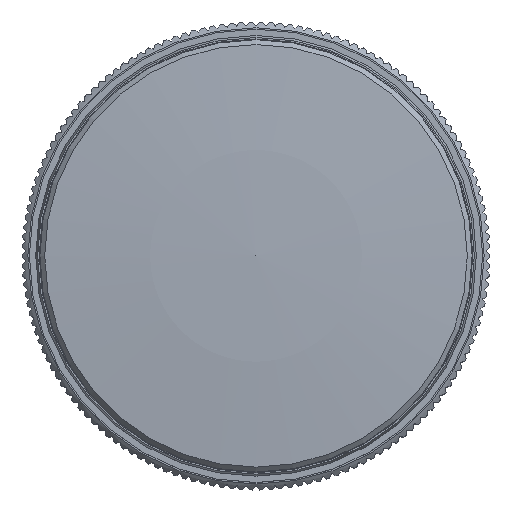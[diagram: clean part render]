
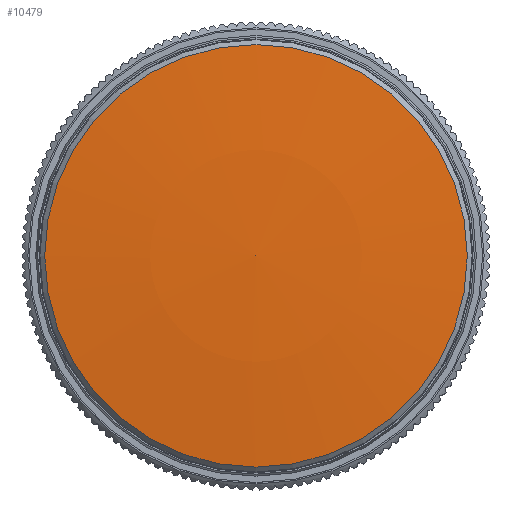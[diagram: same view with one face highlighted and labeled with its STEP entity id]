
A CAD part, top view. The second image highlights one B-rep face of the part: STEP entity #10479.
In plain terms, the highlighted spherical face has radius 257 mm.
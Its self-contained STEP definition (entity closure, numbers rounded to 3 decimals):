
#32=SPHERICAL_SURFACE('',#12755,257.);
#1960=EDGE_LOOP('',(#7278));
#2299=CIRCLE('',#12753,21.675);
#7278=ORIENTED_EDGE('',*,*,#9158,.T.);
#9158=EDGE_CURVE('',#11772,#11772,#2299,.T.);
#10479=ADVANCED_FACE('',(#10514,#10515),#32,.T.);
#10514=FACE_BOUND('',#1960,.T.);
#10515=FACE_BOUND('',#10519,.T.);
#10519=VERTEX_LOOP('',#11773);
#11772=VERTEX_POINT('',#26539);
#11773=VERTEX_POINT('',#26541);
#12753=AXIS2_PLACEMENT_3D('',#26538,#15032,#15033);
#12755=AXIS2_PLACEMENT_3D('',#26542,#15036,#15037);
#15032=DIRECTION('',(0.,0.,1.));
#15033=DIRECTION('',(0.,-1.,0.));
#15036=DIRECTION('',(0.,0.,-1.));
#15037=DIRECTION('',(0.,-1.,0.));
#26538=CARTESIAN_POINT('',(0.,0.,46.58));
#26539=CARTESIAN_POINT('',(0.,-21.675,46.58));
#26541=CARTESIAN_POINT('',(0.,0.,47.496));
#26542=CARTESIAN_POINT('',(0.,0.,-209.504));
